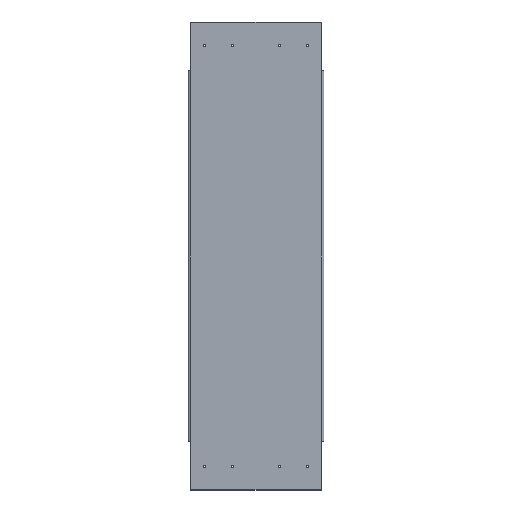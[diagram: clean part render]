
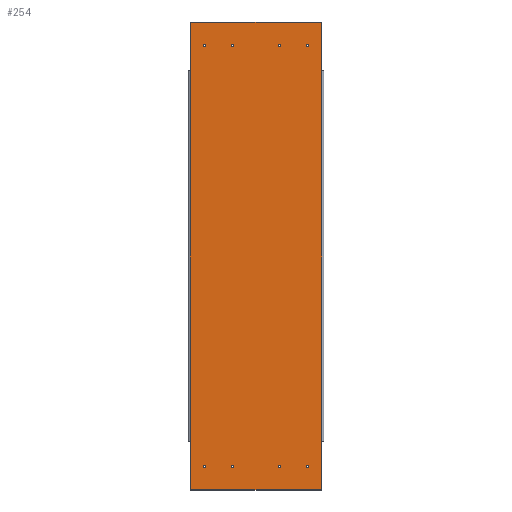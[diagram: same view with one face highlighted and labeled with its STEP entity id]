
A CAD part, top view. The second image highlights one B-rep face of the part: STEP entity #254.
In plain terms, the highlighted planar face has unit normal (0, 0, 1).
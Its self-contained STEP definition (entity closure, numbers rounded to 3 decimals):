
#59=CARTESIAN_POINT('',(1580.,3593.5,287.5));
#60=DIRECTION('',(-0.,-0.,1.));
#61=DIRECTION('',(0.,1.,0.));
#62=AXIS2_PLACEMENT_3D('',#59,#60,#61);
#63=PLANE('',#62);
#64=CARTESIAN_POINT('',(1340.,4479.5,287.5));
#65=VERTEX_POINT('',#64);
#66=CARTESIAN_POINT('',(1340.,4582.5,287.5));
#67=VERTEX_POINT('',#66);
#68=CARTESIAN_POINT('',(1340.,4479.5,287.5));
#69=DIRECTION('',(0.,1.,0.));
#70=VECTOR('',#69,103.);
#71=LINE('',#68,#70);
#72=EDGE_CURVE('',#65,#67,#71,.T.);
#73=ORIENTED_EDGE('',*,*,#72,.F.);
#74=CARTESIAN_POINT('',(1340.,3687.5,287.5));
#75=VERTEX_POINT('',#74);
#76=CARTESIAN_POINT('',(1340.,4479.5,287.5));
#77=DIRECTION('',(-0.,-1.,-0.));
#78=VECTOR('',#77,792.);
#79=LINE('',#76,#78);
#80=EDGE_CURVE('',#65,#75,#79,.T.);
#81=ORIENTED_EDGE('',*,*,#80,.T.);
#82=CARTESIAN_POINT('',(1340.,3584.5,287.5));
#83=VERTEX_POINT('',#82);
#84=CARTESIAN_POINT('',(1340.,3687.5,287.5));
#85=DIRECTION('',(0.,-1.,-0.));
#86=VECTOR('',#85,103.);
#87=LINE('',#84,#86);
#88=EDGE_CURVE('',#75,#83,#87,.T.);
#89=ORIENTED_EDGE('',*,*,#88,.T.);
#90=CARTESIAN_POINT('',(1341.,3583.5,287.5));
#91=VERTEX_POINT('',#90);
#92=CARTESIAN_POINT('',(1341.,3584.5,287.5));
#93=DIRECTION('',(-0.,-0.,1.));
#94=DIRECTION('',(0.,-1.,-0.));
#95=AXIS2_PLACEMENT_3D('',#92,#93,#94);
#96=CIRCLE('',#95,1.);
#97=EDGE_CURVE('',#83,#91,#96,.T.);
#98=ORIENTED_EDGE('',*,*,#97,.T.);
#99=CARTESIAN_POINT('',(1619.,3583.5,287.5));
#100=VERTEX_POINT('',#99);
#101=CARTESIAN_POINT('',(1619.,3583.5,287.5));
#102=DIRECTION('',(-1.,0.,0.));
#103=VECTOR('',#102,278.);
#104=LINE('',#101,#103);
#105=EDGE_CURVE('',#100,#91,#104,.T.);
#106=ORIENTED_EDGE('',*,*,#105,.F.);
#107=CARTESIAN_POINT('',(1620.,3584.5,287.5));
#108=VERTEX_POINT('',#107);
#109=CARTESIAN_POINT('',(1619.,3584.5,287.5));
#110=DIRECTION('',(-0.,-0.,1.));
#111=DIRECTION('',(0.,-1.,-0.));
#112=AXIS2_PLACEMENT_3D('',#109,#110,#111);
#113=CIRCLE('',#112,1.);
#114=EDGE_CURVE('',#100,#108,#113,.T.);
#115=ORIENTED_EDGE('',*,*,#114,.T.);
#116=CARTESIAN_POINT('',(1620.,3687.5,287.5));
#117=VERTEX_POINT('',#116);
#118=CARTESIAN_POINT('',(1620.,3687.5,287.5));
#119=DIRECTION('',(0.,-1.,-0.));
#120=VECTOR('',#119,103.);
#121=LINE('',#118,#120);
#122=EDGE_CURVE('',#117,#108,#121,.T.);
#123=ORIENTED_EDGE('',*,*,#122,.F.);
#124=CARTESIAN_POINT('',(1620.,4479.5,287.5));
#125=VERTEX_POINT('',#124);
#126=CARTESIAN_POINT('',(1620.,3687.5,287.5));
#127=DIRECTION('',(0.,1.,0.));
#128=VECTOR('',#127,792.);
#129=LINE('',#126,#128);
#130=EDGE_CURVE('',#117,#125,#129,.T.);
#131=ORIENTED_EDGE('',*,*,#130,.T.);
#132=CARTESIAN_POINT('',(1620.,4582.5,287.5));
#133=VERTEX_POINT('',#132);
#134=CARTESIAN_POINT('',(1620.,4479.5,287.5));
#135=DIRECTION('',(0.,1.,0.));
#136=VECTOR('',#135,103.);
#137=LINE('',#134,#136);
#138=EDGE_CURVE('',#125,#133,#137,.T.);
#139=ORIENTED_EDGE('',*,*,#138,.T.);
#140=CARTESIAN_POINT('',(1619.,4583.5,287.5));
#141=VERTEX_POINT('',#140);
#142=CARTESIAN_POINT('',(1619.,4582.5,287.5));
#143=DIRECTION('',(-0.,-0.,1.));
#144=DIRECTION('',(0.,-1.,-0.));
#145=AXIS2_PLACEMENT_3D('',#142,#143,#144);
#146=CIRCLE('',#145,1.);
#147=EDGE_CURVE('',#133,#141,#146,.T.);
#148=ORIENTED_EDGE('',*,*,#147,.T.);
#149=CARTESIAN_POINT('',(1341.,4583.5,287.5));
#150=VERTEX_POINT('',#149);
#151=CARTESIAN_POINT('',(1619.,4583.5,287.5));
#152=DIRECTION('',(-1.,0.,0.));
#153=VECTOR('',#152,278.);
#154=LINE('',#151,#153);
#155=EDGE_CURVE('',#141,#150,#154,.T.);
#156=ORIENTED_EDGE('',*,*,#155,.T.);
#157=CARTESIAN_POINT('',(1341.,4582.5,287.5));
#158=DIRECTION('',(-0.,-0.,1.));
#159=DIRECTION('',(0.,-1.,-0.));
#160=AXIS2_PLACEMENT_3D('',#157,#158,#159);
#161=CIRCLE('',#160,1.);
#162=EDGE_CURVE('',#150,#67,#161,.T.);
#163=ORIENTED_EDGE('',*,*,#162,.T.);
#164=EDGE_LOOP('',(#73,#81,#89,#98,#106,#115,#123,#131,#139,#148,#156,#163));
#165=FACE_BOUND('',#164,.T.);
#166=CARTESIAN_POINT('',(1370.,3630.9,287.5));
#167=VERTEX_POINT('',#166);
#168=CARTESIAN_POINT('',(1370.,3633.5,287.5));
#169=DIRECTION('',(-0.,-0.,1.));
#170=DIRECTION('',(0.,-1.,-0.));
#171=AXIS2_PLACEMENT_3D('',#168,#169,#170);
#172=CIRCLE('',#171,2.6);
#173=EDGE_CURVE('',#167,#167,#172,.T.);
#174=ORIENTED_EDGE('',*,*,#173,.F.);
#175=EDGE_LOOP('',(#174));
#176=FACE_BOUND('',#175,.T.);
#177=CARTESIAN_POINT('',(1430.,3630.9,287.5));
#178=VERTEX_POINT('',#177);
#179=CARTESIAN_POINT('',(1430.,3633.5,287.5));
#180=DIRECTION('',(-0.,-0.,1.));
#181=DIRECTION('',(0.,-1.,-0.));
#182=AXIS2_PLACEMENT_3D('',#179,#180,#181);
#183=CIRCLE('',#182,2.6);
#184=EDGE_CURVE('',#178,#178,#183,.T.);
#185=ORIENTED_EDGE('',*,*,#184,.F.);
#186=EDGE_LOOP('',(#185));
#187=FACE_BOUND('',#186,.T.);
#188=CARTESIAN_POINT('',(1530.,3630.9,287.5));
#189=VERTEX_POINT('',#188);
#190=CARTESIAN_POINT('',(1530.,3633.5,287.5));
#191=DIRECTION('',(-0.,-0.,1.));
#192=DIRECTION('',(0.,-1.,-0.));
#193=AXIS2_PLACEMENT_3D('',#190,#191,#192);
#194=CIRCLE('',#193,2.6);
#195=EDGE_CURVE('',#189,#189,#194,.T.);
#196=ORIENTED_EDGE('',*,*,#195,.F.);
#197=EDGE_LOOP('',(#196));
#198=FACE_BOUND('',#197,.T.);
#199=CARTESIAN_POINT('',(1590.,3630.9,287.5));
#200=VERTEX_POINT('',#199);
#201=CARTESIAN_POINT('',(1590.,3633.5,287.5));
#202=DIRECTION('',(-0.,-0.,1.));
#203=DIRECTION('',(0.,-1.,-0.));
#204=AXIS2_PLACEMENT_3D('',#201,#202,#203);
#205=CIRCLE('',#204,2.6);
#206=EDGE_CURVE('',#200,#200,#205,.T.);
#207=ORIENTED_EDGE('',*,*,#206,.F.);
#208=EDGE_LOOP('',(#207));
#209=FACE_BOUND('',#208,.T.);
#210=CARTESIAN_POINT('',(1590.,4530.9,287.5));
#211=VERTEX_POINT('',#210);
#212=CARTESIAN_POINT('',(1590.,4533.5,287.5));
#213=DIRECTION('',(-0.,-0.,1.));
#214=DIRECTION('',(0.,-1.,-0.));
#215=AXIS2_PLACEMENT_3D('',#212,#213,#214);
#216=CIRCLE('',#215,2.6);
#217=EDGE_CURVE('',#211,#211,#216,.T.);
#218=ORIENTED_EDGE('',*,*,#217,.F.);
#219=EDGE_LOOP('',(#218));
#220=FACE_BOUND('',#219,.T.);
#221=CARTESIAN_POINT('',(1530.,4530.9,287.5));
#222=VERTEX_POINT('',#221);
#223=CARTESIAN_POINT('',(1530.,4533.5,287.5));
#224=DIRECTION('',(-0.,-0.,1.));
#225=DIRECTION('',(0.,-1.,-0.));
#226=AXIS2_PLACEMENT_3D('',#223,#224,#225);
#227=CIRCLE('',#226,2.6);
#228=EDGE_CURVE('',#222,#222,#227,.T.);
#229=ORIENTED_EDGE('',*,*,#228,.F.);
#230=EDGE_LOOP('',(#229));
#231=FACE_BOUND('',#230,.T.);
#232=CARTESIAN_POINT('',(1370.,4530.9,287.5));
#233=VERTEX_POINT('',#232);
#234=CARTESIAN_POINT('',(1370.,4533.5,287.5));
#235=DIRECTION('',(-0.,-0.,1.));
#236=DIRECTION('',(0.,-1.,-0.));
#237=AXIS2_PLACEMENT_3D('',#234,#235,#236);
#238=CIRCLE('',#237,2.6);
#239=EDGE_CURVE('',#233,#233,#238,.T.);
#240=ORIENTED_EDGE('',*,*,#239,.F.);
#241=EDGE_LOOP('',(#240));
#242=FACE_BOUND('',#241,.T.);
#243=CARTESIAN_POINT('',(1430.,4530.9,287.5));
#244=VERTEX_POINT('',#243);
#245=CARTESIAN_POINT('',(1430.,4533.5,287.5));
#246=DIRECTION('',(-0.,-0.,1.));
#247=DIRECTION('',(0.,-1.,-0.));
#248=AXIS2_PLACEMENT_3D('',#245,#246,#247);
#249=CIRCLE('',#248,2.6);
#250=EDGE_CURVE('',#244,#244,#249,.T.);
#251=ORIENTED_EDGE('',*,*,#250,.F.);
#252=EDGE_LOOP('',(#251));
#253=FACE_BOUND('',#252,.T.);
#254=ADVANCED_FACE('',(#165,#176,#187,#198,#209,#220,#231,#242,#253),#63,.T.);
